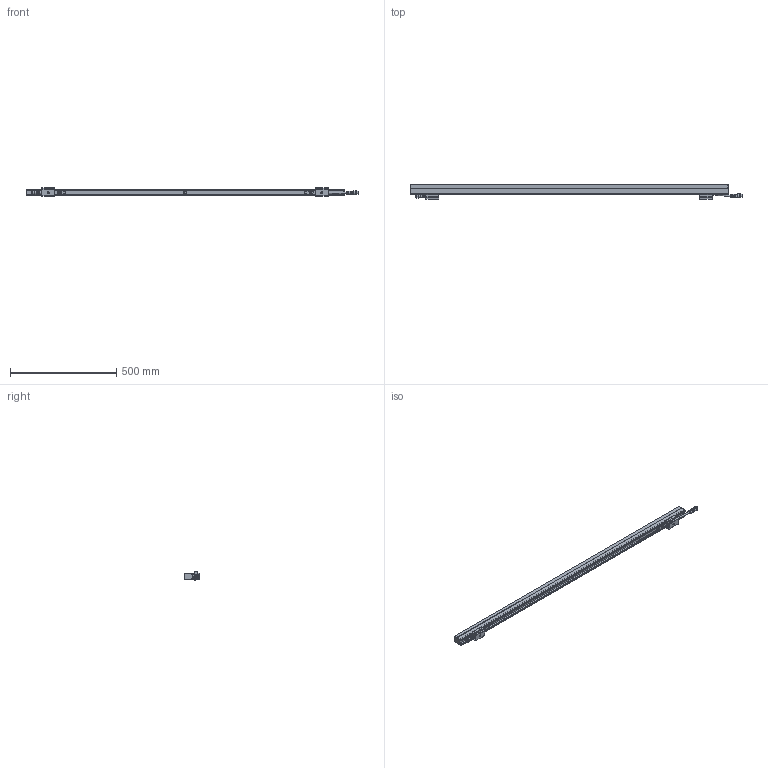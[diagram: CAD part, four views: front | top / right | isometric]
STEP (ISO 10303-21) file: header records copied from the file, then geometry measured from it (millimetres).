
FILE_DESCRIPTION (( 'STEP AP214' ), '1' );
FILE_NAME ('E series 2 Square L1500.STEP', '2025-11-24T13:37:59', ( '' ), ( '' ), 'SwSTEP 2.0', 'SolidWorks 2025', '' );
FILE_SCHEMA (( 'AUTOMOTIVE_DESIGN' ));
Length unit declared in the file: millimetre
Products named in the file (12): M16 5p Male; D & E Series 2 breathing valve; Part2^E series 2; E series 2 with square cover body_1500mm; Counter sunk screw torx_M2.5x16; E series 2 with dome cover body and bare config_Bare 1500mm; E series 2 Square L1500; Part1^E series 2; E series 2 mounting clip bottom; M16 5p Female; Counter sunk screw torx_M3x16; E series 2 mounting clip top
Assembly tree (27 placements, depth 2):
  E series 2 Square L1500
    E series 2 with dome cover body and bare config_Bare 1500mm
    Counter sunk screw torx_M2.5x16  x12
    E series 2 mounting clip bottom  x2
    E series 2 mounting clip top  x2
    Counter sunk screw torx_M3x16  x4
    E series 2 with square cover body_1500mm
    M16 5p Female
    Part2^E series 2
    M16 5p Male
    Part1^E series 2
    D & E Series 2 breathing valve
Bounding box: 1565.35 x 68.7 x 41.7 mm (x, y, z)
Volume: 1768467.7 mm3; surface area: 365246.4 mm2
Topology: 29 solids, 32 shells, 1782 faces, 4436 edges, 2799 vertices
Faces by surface type: cylinder 741, plane 632, torus 135, bspline 130, cone 118, sphere 26
Full cylindrical faces by diameter (mm): 2.4 x2, 2.5 x12, 3 x4, 4.5 x12, 5.81 x4, 9.2 x1, 11.1 x1, 14.25 x1, 14.3 x1, 18 x1
Entity records: 61974 total; most frequent: CARTESIAN_POINT 20323, ORIENTED_EDGE 7026, DIRECTION 6615, EDGE_CURVE 3513, AXIS2_PLACEMENT_3D 2557, VERTEX_POINT 2225, EDGE_LOOP 1588, VECTOR 1501
